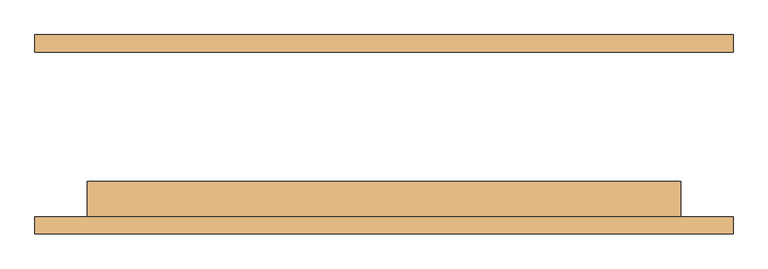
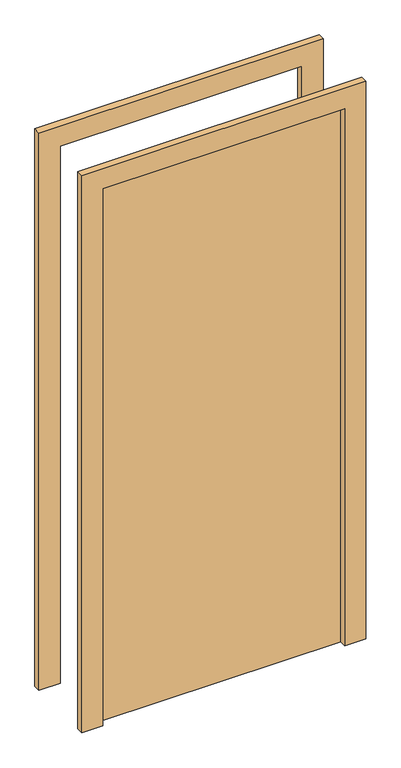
"""IFC4 building model written with IfcOpenShell, lengths in millimetres: door geometry, Одиночные-Щитовые : 0864 x 2032 мм."""

from ifc_helpers import new_model, si_unit, frame, origin, origin_with_axes, place, context, project, spatial, polyline, outline, extrude, source, transform, mapped, element, save


def door_d674bff8(model_context):
    return source(origin(), model_context, "Body", "SweptSolid", [
        extrude(outline(polyline([(2108.0, -508.0), (0.0, -508.0), (0.0, -432.0), (2032.0, -432.0), (2032.0, 432.0), (0.0, 432.0), (0.0, 508.0), (2108.0, 508.0), (2108.0, -508.0)])), frame((0.0, -145.0, 0.0), z_axis=(0.0, 1.0, 0.0), x_axis=(0.0, 0.0, 1.0)), (0.0, 0.0, 1.0), 25.0),
        extrude(outline(polyline([(2108.0, 508.0), (2108.0, -508.0), (0.0, -508.0), (0.0, -432.0), (2032.0, -432.0), (2032.0, 432.0), (0.0, 432.0), (0.0, 508.0), (2108.0, 508.0)])), frame((0.0, 120.0, 0.0), z_axis=(0.0, 1.0, 0.0), x_axis=(0.0, 0.0, 1.0)), (0.0, 0.0, 1.0), 25.0),
        extrude(outline(polyline([(432.0, -69.0), (432.0, -120.0), (-432.0, -120.0), (-432.0, -69.0), (432.0, -69.0)])), origin_with_axes(), (0.0, 0.0, 1.0), 2032.0),
    ])


if __name__ == "__main__":
    model = new_model("IFC4")
    model_context = context("Model", 3, world=origin())
    ifc_project = project(units=[si_unit("LENGTHUNIT", "METRE", prefix="MILLI")], contexts=[model_context])
    site = spatial("IfcSite", under=ifc_project)
    building = spatial("IfcBuilding", under=site)
    placement = place(None, origin())
    door_shape = door_d674bff8(model_context)
    element("IfcDoor", 1, ObjectType="Одиночные-Щитовые : 0864 x 2032 мм", at=placement, inside=building, context=model_context, shape_type="MappedRepresentation", body=[
        mapped(door_shape, transform((0.0, 0.0, 0.0), x_axis=(1.0, 0.0, 0.0), y_axis=(0.0, 1.0, 0.0), z_axis=(0.0, 0.0, 1.0))),
    ])
    save(model, "model.ifc")
